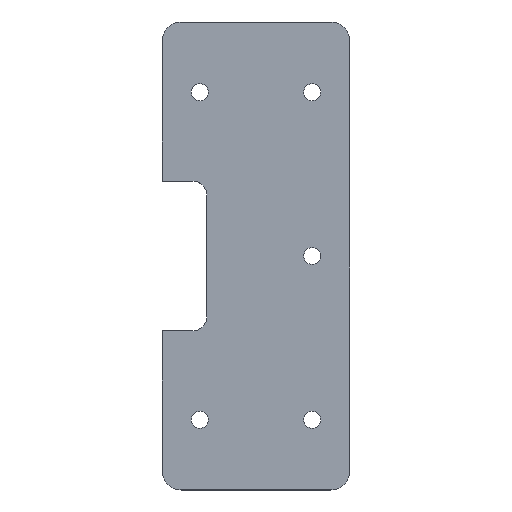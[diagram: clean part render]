
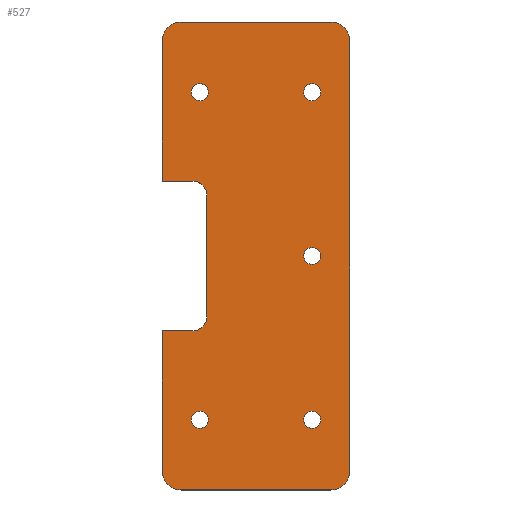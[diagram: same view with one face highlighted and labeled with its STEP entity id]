
A CAD part, top view. The second image highlights one B-rep face of the part: STEP entity #527.
In plain terms, the highlighted planar face has unit normal (0, 0, 1).
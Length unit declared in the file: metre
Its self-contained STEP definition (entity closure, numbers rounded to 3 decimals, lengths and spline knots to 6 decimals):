
#16=CIRCLE('',#569,0.004);
#18=CIRCLE('',#573,0.004);
#19=CIRCLE('',#574,0.003);
#20=CIRCLE('',#575,0.003);
#21=CIRCLE('',#576,0.004);
#22=CIRCLE('',#577,0.004);
#23=CIRCLE('',#578,0.0018);
#24=CIRCLE('',#579,0.0018);
#25=CIRCLE('',#580,0.0018);
#26=CIRCLE('',#581,0.0018);
#27=CIRCLE('',#582,0.0018);
#65=ORIENTED_EDGE('',*,*,#209,.F.);
#66=ORIENTED_EDGE('',*,*,#207,.T.);
#67=ORIENTED_EDGE('',*,*,#215,.T.);
#68=ORIENTED_EDGE('',*,*,#216,.T.);
#69=ORIENTED_EDGE('',*,*,#217,.T.);
#70=ORIENTED_EDGE('',*,*,#218,.F.);
#71=ORIENTED_EDGE('',*,*,#219,.T.);
#72=ORIENTED_EDGE('',*,*,#220,.F.);
#73=ORIENTED_EDGE('',*,*,#221,.T.);
#74=ORIENTED_EDGE('',*,*,#222,.T.);
#75=ORIENTED_EDGE('',*,*,#223,.T.);
#76=ORIENTED_EDGE('',*,*,#224,.T.);
#77=ORIENTED_EDGE('',*,*,#225,.T.);
#78=ORIENTED_EDGE('',*,*,#226,.T.);
#79=ORIENTED_EDGE('',*,*,#227,.T.);
#80=ORIENTED_EDGE('',*,*,#228,.T.);
#81=ORIENTED_EDGE('',*,*,#229,.T.);
#82=ORIENTED_EDGE('',*,*,#230,.T.);
#83=ORIENTED_EDGE('',*,*,#231,.T.);
#207=EDGE_CURVE('',#284,#283,#331,.T.);
#209=EDGE_CURVE('',#284,#285,#16,.F.);
#215=EDGE_CURVE('',#283,#289,#18,.T.);
#216=EDGE_CURVE('',#289,#290,#337,.T.);
#217=EDGE_CURVE('',#290,#291,#338,.F.);
#218=EDGE_CURVE('',#292,#291,#19,.T.);
#219=EDGE_CURVE('',#292,#293,#339,.T.);
#220=EDGE_CURVE('',#294,#293,#20,.T.);
#221=EDGE_CURVE('',#294,#295,#340,.T.);
#222=EDGE_CURVE('',#295,#296,#341,.T.);
#223=EDGE_CURVE('',#296,#297,#21,.T.);
#224=EDGE_CURVE('',#297,#298,#342,.F.);
#225=EDGE_CURVE('',#298,#299,#22,.T.);
#226=EDGE_CURVE('',#299,#285,#343,.F.);
#227=EDGE_CURVE('',#300,#300,#23,.T.);
#228=EDGE_CURVE('',#301,#301,#24,.T.);
#229=EDGE_CURVE('',#302,#302,#25,.T.);
#230=EDGE_CURVE('',#303,#303,#26,.T.);
#231=EDGE_CURVE('',#304,#304,#27,.T.);
#283=VERTEX_POINT('',#793);
#284=VERTEX_POINT('',#795);
#285=VERTEX_POINT('',#799);
#289=VERTEX_POINT('',#811);
#290=VERTEX_POINT('',#813);
#291=VERTEX_POINT('',#815);
#292=VERTEX_POINT('',#817);
#293=VERTEX_POINT('',#819);
#294=VERTEX_POINT('',#821);
#295=VERTEX_POINT('',#823);
#296=VERTEX_POINT('',#825);
#297=VERTEX_POINT('',#827);
#298=VERTEX_POINT('',#829);
#299=VERTEX_POINT('',#831);
#300=VERTEX_POINT('',#834);
#301=VERTEX_POINT('',#836);
#302=VERTEX_POINT('',#838);
#303=VERTEX_POINT('',#840);
#304=VERTEX_POINT('',#842);
#331=LINE('',#794,#381);
#337=LINE('',#812,#387);
#338=LINE('',#814,#388);
#339=LINE('',#818,#389);
#340=LINE('',#822,#390);
#341=LINE('',#824,#391);
#342=LINE('',#828,#392);
#343=LINE('',#832,#393);
#381=VECTOR('',#629,1.);
#387=VECTOR('',#647,1.);
#388=VECTOR('',#648,1.);
#389=VECTOR('',#651,1.);
#390=VECTOR('',#654,1.);
#391=VECTOR('',#655,1.);
#392=VECTOR('',#658,1.);
#393=VECTOR('',#661,1.);
#432=EDGE_LOOP('',(#65,#66,#67,#68,#69,#70,#71,#72,#73,#74,#75,#76,#77,
#78));
#433=EDGE_LOOP('',(#79));
#434=EDGE_LOOP('',(#80));
#435=EDGE_LOOP('',(#81));
#436=EDGE_LOOP('',(#82));
#437=EDGE_LOOP('',(#83));
#472=FACE_BOUND('',#432,.T.);
#473=FACE_BOUND('',#433,.T.);
#474=FACE_BOUND('',#434,.T.);
#475=FACE_BOUND('',#435,.T.);
#476=FACE_BOUND('',#436,.T.);
#477=FACE_BOUND('',#437,.T.);
#511=PLANE('',#572);
#527=ADVANCED_FACE('',(#472,#473,#474,#475,#476,#477),#511,.T.);
#569=AXIS2_PLACEMENT_3D('',#798,#633,#634);
#572=AXIS2_PLACEMENT_3D('',#809,#643,#644);
#573=AXIS2_PLACEMENT_3D('',#810,#645,#646);
#574=AXIS2_PLACEMENT_3D('',#816,#649,#650);
#575=AXIS2_PLACEMENT_3D('',#820,#652,#653);
#576=AXIS2_PLACEMENT_3D('',#826,#656,#657);
#577=AXIS2_PLACEMENT_3D('',#830,#659,#660);
#578=AXIS2_PLACEMENT_3D('',#833,#662,#663);
#579=AXIS2_PLACEMENT_3D('',#835,#664,#665);
#580=AXIS2_PLACEMENT_3D('',#837,#666,#667);
#581=AXIS2_PLACEMENT_3D('',#839,#668,#669);
#582=AXIS2_PLACEMENT_3D('',#841,#670,#671);
#629=DIRECTION('',(-1.,0.,0.));
#633=DIRECTION('',(0.,0.,1.));
#634=DIRECTION('',(1.,0.,0.));
#643=DIRECTION('',(0.,0.,1.));
#644=DIRECTION('',(-1.,0.,0.));
#645=DIRECTION('',(0.,0.,1.));
#646=DIRECTION('',(1.,0.,0.));
#647=DIRECTION('',(0.,-1.,0.));
#648=DIRECTION('',(-1.,0.,0.));
#649=DIRECTION('',(0.,0.,1.));
#650=DIRECTION('',(1.,0.,0.));
#651=DIRECTION('',(0.,-1.,0.));
#652=DIRECTION('',(0.,0.,1.));
#653=DIRECTION('',(1.,0.,0.));
#654=DIRECTION('',(-1.,0.,0.));
#655=DIRECTION('',(0.,-1.,0.));
#656=DIRECTION('',(0.,0.,1.));
#657=DIRECTION('',(1.,0.,0.));
#658=DIRECTION('',(-1.,0.,0.));
#659=DIRECTION('',(0.,0.,1.));
#660=DIRECTION('',(1.,0.,0.));
#661=DIRECTION('',(0.,-1.,0.));
#662=DIRECTION('',(0.,0.,-1.));
#663=DIRECTION('',(-1.,0.,0.));
#664=DIRECTION('',(0.,0.,-1.));
#665=DIRECTION('',(-1.,0.,0.));
#666=DIRECTION('',(0.,0.,-1.));
#667=DIRECTION('',(-1.,0.,0.));
#668=DIRECTION('',(0.,0.,-1.));
#669=DIRECTION('',(-1.,0.,0.));
#670=DIRECTION('',(0.,0.,-1.));
#671=DIRECTION('',(-1.,0.,0.));
#793=CARTESIAN_POINT('',(0.029,0.05,0.046));
#794=CARTESIAN_POINT('',(0.045,0.05,0.046));
#795=CARTESIAN_POINT('',(0.061,0.05,0.046));
#798=CARTESIAN_POINT('',(0.061,0.046,0.046));
#799=CARTESIAN_POINT('',(0.065,0.046,0.046));
#809=CARTESIAN_POINT('',(0.045,0.,0.046));
#810=CARTESIAN_POINT('',(0.029,0.046,0.046));
#811=CARTESIAN_POINT('',(0.025,0.046,0.046));
#812=CARTESIAN_POINT('',(0.025,0.,0.046));
#813=CARTESIAN_POINT('',(0.025,0.016,0.046));
#814=CARTESIAN_POINT('',(0.045,0.016,0.046));
#815=CARTESIAN_POINT('',(0.0315,0.016,0.046));
#816=CARTESIAN_POINT('',(0.0315,0.013,0.046));
#817=CARTESIAN_POINT('',(0.0345,0.013,0.046));
#818=CARTESIAN_POINT('',(0.0345,0.,0.046));
#819=CARTESIAN_POINT('',(0.0345,-0.013,0.046));
#820=CARTESIAN_POINT('',(0.0315,-0.013,0.046));
#821=CARTESIAN_POINT('',(0.0315,-0.016,0.046));
#822=CARTESIAN_POINT('',(0.045,-0.016,0.046));
#823=CARTESIAN_POINT('',(0.025,-0.016,0.046));
#824=CARTESIAN_POINT('',(0.025,0.,0.046));
#825=CARTESIAN_POINT('',(0.025,-0.046,0.046));
#826=CARTESIAN_POINT('',(0.029,-0.046,0.046));
#827=CARTESIAN_POINT('',(0.029,-0.05,0.046));
#828=CARTESIAN_POINT('',(0.045,-0.05,0.046));
#829=CARTESIAN_POINT('',(0.061,-0.05,0.046));
#830=CARTESIAN_POINT('',(0.061,-0.046,0.046));
#831=CARTESIAN_POINT('',(0.065,-0.046,0.046));
#832=CARTESIAN_POINT('',(0.065,0.,0.046));
#833=CARTESIAN_POINT('',(0.057,0.035,0.046));
#834=CARTESIAN_POINT('',(0.0552,0.035,0.046));
#835=CARTESIAN_POINT('',(0.033,0.035,0.046));
#836=CARTESIAN_POINT('',(0.0312,0.035,0.046));
#837=CARTESIAN_POINT('',(0.057,0.,0.046));
#838=CARTESIAN_POINT('',(0.0552,0.,0.046));
#839=CARTESIAN_POINT('',(0.057,-0.035,0.046));
#840=CARTESIAN_POINT('',(0.0552,-0.035,0.046));
#841=CARTESIAN_POINT('',(0.033,-0.035,0.046));
#842=CARTESIAN_POINT('',(0.0312,-0.035,0.046));
